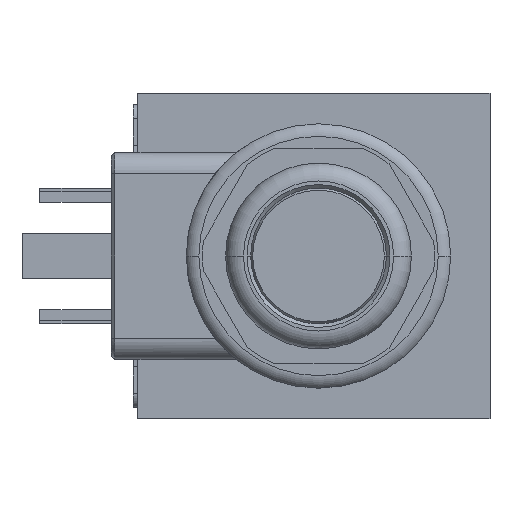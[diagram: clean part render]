
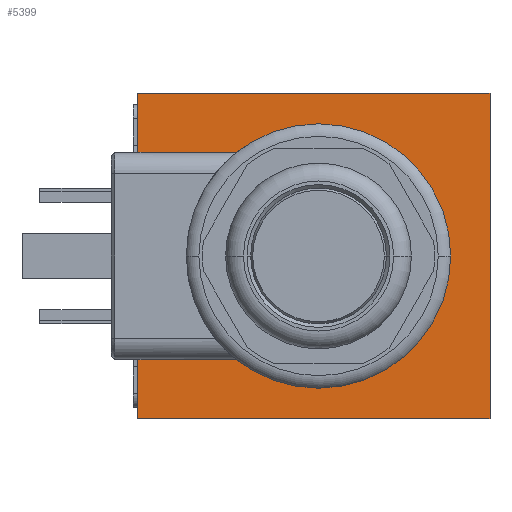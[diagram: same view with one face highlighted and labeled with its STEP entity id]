
A CAD part, left-side view. The second image highlights one B-rep face of the part: STEP entity #5399.
In plain terms, the highlighted planar face has unit normal (-1, 0, 0).
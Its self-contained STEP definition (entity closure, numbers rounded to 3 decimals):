
#45=DIRECTION('',(0.,-1.,0.));
#46=VECTOR('',#45,49.3);
#47=CARTESIAN_POINT('',(-34.,25.3,-22.75));
#48=LINE('',#47,#46);
#97=DIRECTION('',(0.,0.,1.));
#98=VECTOR('',#97,45.5);
#99=CARTESIAN_POINT('',(-34.,-24.,-22.75));
#100=LINE('',#99,#98);
#181=DIRECTION('',(0.,0.,1.));
#182=VECTOR('',#181,45.5);
#183=CARTESIAN_POINT('',(-34.,25.3,-22.75));
#184=LINE('',#183,#182);
#185=CARTESIAN_POINT('',(-34.,0.,0.));
#186=DIRECTION('',(-1.,0.,0.));
#187=DIRECTION('',(0.,-1.,0.));
#188=AXIS2_PLACEMENT_3D('',#185,#186,#187);
#190=CARTESIAN_POINT('',(-34.,0.,0.));
#191=DIRECTION('',(-1.,0.,0.));
#192=DIRECTION('',(0.,1.,0.));
#193=AXIS2_PLACEMENT_3D('',#190,#191,#192);
#365=DIRECTION('',(0.,-1.,0.));
#366=VECTOR('',#365,49.3);
#367=CARTESIAN_POINT('',(-34.,25.3,22.75));
#368=LINE('',#367,#366);
#4145=CARTESIAN_POINT('',(-34.,-24.,-22.75));
#4147=VERTEX_POINT('',#4145);
#4151=CARTESIAN_POINT('',(-34.,25.3,-22.75));
#4152=VERTEX_POINT('',#4151);
#4153=CARTESIAN_POINT('',(-34.,-24.,22.75));
#4155=VERTEX_POINT('',#4153);
#4159=CARTESIAN_POINT('',(-34.,25.3,22.75));
#4160=VERTEX_POINT('',#4159);
#5107=CARTESIAN_POINT('',(-34.,-18.5,0.));
#5108=VERTEX_POINT('',#5107);
#5109=CARTESIAN_POINT('',(-34.,18.5,0.));
#5110=VERTEX_POINT('',#5109);
#5380=CARTESIAN_POINT('',(-34.,25.3,-22.75));
#5381=DIRECTION('',(-1.,0.,0.));
#5382=DIRECTION('',(0.,-1.,0.));
#5383=AXIS2_PLACEMENT_3D('',#5380,#5381,#5382);
#5384=PLANE('',#5383);
#5385=ORIENTED_EDGE('',*,*,#5278,.F.);
#5387=ORIENTED_EDGE('',*,*,#5386,.T.);
#5389=ORIENTED_EDGE('',*,*,#5388,.T.);
#5390=ORIENTED_EDGE('',*,*,#5323,.F.);
#5391=EDGE_LOOP('',(#5385,#5387,#5389,#5390));
#5392=FACE_OUTER_BOUND('',#5391,.F.);
#5394=ORIENTED_EDGE('',*,*,#5393,.T.);
#5396=ORIENTED_EDGE('',*,*,#5395,.T.);
#5397=EDGE_LOOP('',(#5394,#5396));
#5398=FACE_BOUND('',#5397,.F.);
#189=CIRCLE('',#188,18.5);
#194=CIRCLE('',#193,18.5);
#5278=EDGE_CURVE('',#4152,#4147,#48,.T.);
#5323=EDGE_CURVE('',#4147,#4155,#100,.T.);
#5386=EDGE_CURVE('',#4152,#4160,#184,.T.);
#5388=EDGE_CURVE('',#4160,#4155,#368,.T.);
#5393=EDGE_CURVE('',#5108,#5110,#189,.T.);
#5395=EDGE_CURVE('',#5110,#5108,#194,.T.);
#5399=ADVANCED_FACE('',(#5392,#5398),#5384,.T.);
